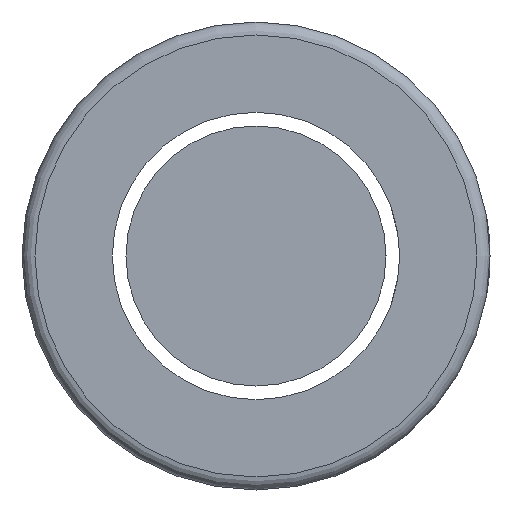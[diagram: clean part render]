
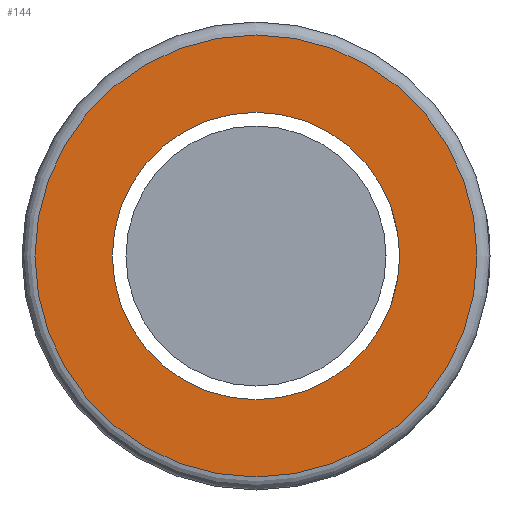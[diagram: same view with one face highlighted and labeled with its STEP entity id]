
A CAD part, left-side view. The second image highlights one B-rep face of the part: STEP entity #144.
In plain terms, the highlighted planar face has unit normal (-1, 0, 0).
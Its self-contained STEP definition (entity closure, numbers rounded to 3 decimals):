
#5 = VERTEX_POINT ( 'NONE', #157 ) ;
#42 = DIRECTION ( 'NONE',  ( 0., 0., 1. ) ) ;
#144 = ADVANCED_FACE ( 'NONE', ( #549, #146 ), #380, .T. ) ;
#146 = FACE_BOUND ( 'NONE', #580, .T. ) ;
#157 = CARTESIAN_POINT ( 'NONE',  ( -55., 0., -11.05 ) ) ;
#211 = AXIS2_PLACEMENT_3D ( 'NONE', #450, #222, #42 ) ;
#218 = DIRECTION ( 'NONE',  ( 1., 0., 0. ) ) ;
#222 = DIRECTION ( 'NONE',  ( -1., 0., 0. ) ) ;
#240 = DIRECTION ( 'NONE',  ( -1., 0., 0. ) ) ;
#276 = ORIENTED_EDGE ( 'NONE', *, *, #589, .T. ) ;
#311 = DIRECTION ( 'NONE',  ( 0., 0., -1. ) ) ;
#341 = AXIS2_PLACEMENT_3D ( 'NONE', #430, #240, #467 ) ;
#366 = ORIENTED_EDGE ( 'NONE', *, *, #564, .T. ) ;
#377 = CIRCLE ( 'NONE', #211, 17. ) ;
#380 = PLANE ( 'NONE',  #341 ) ;
#385 = CARTESIAN_POINT ( 'NONE',  ( -55., 0., 17. ) ) ;
#408 = CARTESIAN_POINT ( 'NONE',  ( -55., 0., 0. ) ) ;
#419 = VERTEX_POINT ( 'NONE', #385 ) ;
#430 = CARTESIAN_POINT ( 'NONE',  ( -55., 18.15, 0. ) ) ;
#450 = CARTESIAN_POINT ( 'NONE',  ( -55., 0., 0. ) ) ;
#467 = DIRECTION ( 'NONE',  ( 0., 0., 1. ) ) ;
#493 = EDGE_LOOP ( 'NONE', ( #276 ) ) ;
#534 = CIRCLE ( 'NONE', #555, 11.05 ) ;
#549 = FACE_OUTER_BOUND ( 'NONE', #493, .T. ) ;
#555 = AXIS2_PLACEMENT_3D ( 'NONE', #408, #218, #311 ) ;
#564 = EDGE_CURVE ( 'NONE', #5, #5, #534, .T. ) ;
#580 = EDGE_LOOP ( 'NONE', ( #366 ) ) ;
#589 = EDGE_CURVE ( 'NONE', #419, #419, #377, .T. ) ;
